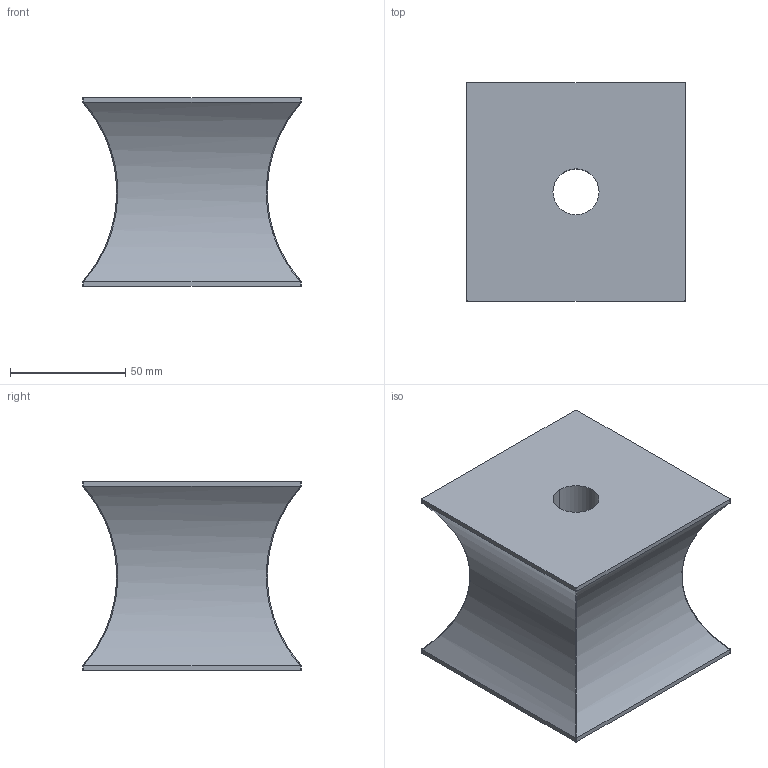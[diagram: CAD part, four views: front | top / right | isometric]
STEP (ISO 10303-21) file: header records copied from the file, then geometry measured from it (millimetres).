
FILE_DESCRIPTION(/* description */ (''),/* implementation_level */ '2;1');
FILE_NAME(/* name */ '3d_qx95-82_06522_r00.stp',/* time_stamp */ '2011-01-10T14:11:39+09:00',/* author */ ('MISUMI'),/* organization */ (''),/* preprocessor_version */ 'ST-DEVELOPER v11',/* originating_system */ 'UGS - NX 5.0',/* authorisation */ '');
FILE_SCHEMA (('CONFIG_CONTROL_DESIGN'));
Length unit declared in the file: millimetre
Products named in the file (1): 3d_qx95-82_06522_r00
Bounding box: 95 x 95 x 82 mm (x, y, z)
Volume: 452286.7 mm3; surface area: 49779.4 mm2
Topology: 1 solids, 1 shells, 28 faces, 78 edges, 52 vertices
Faces by surface type: cylinder 14, plane 10, bspline 4
Entity records: 4928 total; most frequent: CARTESIAN_POINT 4179, ORIENTED_EDGE 156, DIRECTION 108, EDGE_CURVE 78, VERTEX_POINT 52, AXIS2_PLACEMENT_3D 37, LINE 34, VECTOR 34
